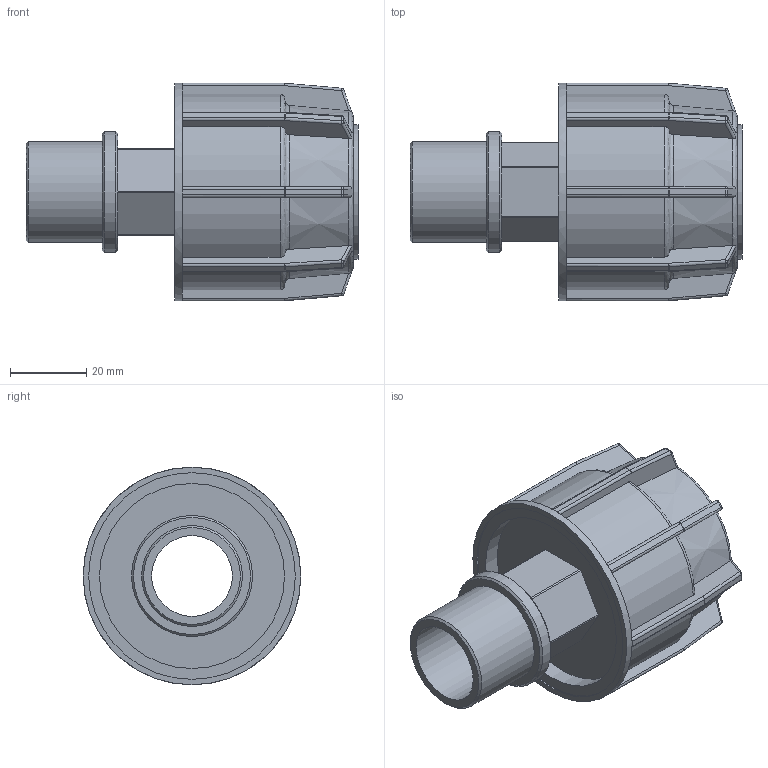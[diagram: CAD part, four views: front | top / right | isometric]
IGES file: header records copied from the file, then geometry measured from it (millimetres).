
Global section: file name: 040207032010.ipt; native system: Autodesk Inventor 2015; preprocessor: unknown; author: KIM; date: 20180409.130630; units: millimetre
Bounding box: 87 x 57 x 57 mm (x, y, z)
Volume: 58694.5 mm3; surface area: 26134.6 mm2
Topology: 1 solids, 1 shells, 283 faces, 678 edges, 396 vertices
Faces by surface type: plane 142, cylinder 76, sphere 32, revolution 22, cone 11
Full cylindrical faces by diameter (mm): 26.441 x1, 31.729 x1, 35.2 x1, 57 x1
